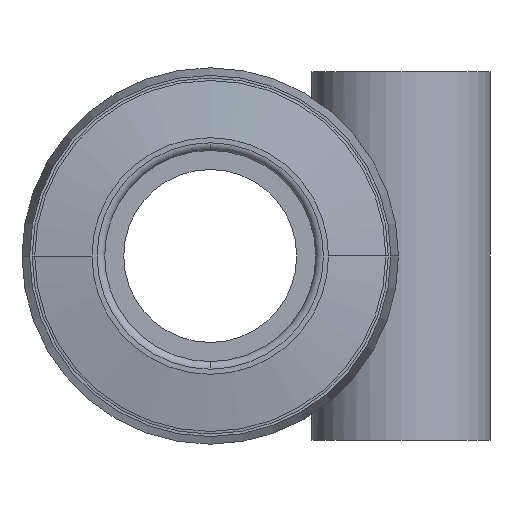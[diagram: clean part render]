
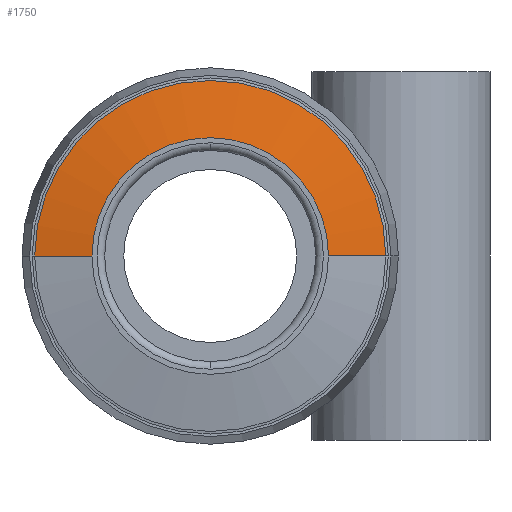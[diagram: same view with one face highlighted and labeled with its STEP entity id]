
A CAD part, front view. The second image highlights one B-rep face of the part: STEP entity #1750.
In plain terms, the highlighted conical face has half-angle 79.919 degrees and reference radius 5.775 mm.
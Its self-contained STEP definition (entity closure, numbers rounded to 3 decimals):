
#58 = AXIS2_PLACEMENT_3D ( 'NONE', #1073, #945, #1382 ) ;
#142 = ORIENTED_EDGE ( 'NONE', *, *, #1671, .F. ) ;
#297 = ORIENTED_EDGE ( 'NONE', *, *, #1365, .T. ) ;
#311 = CARTESIAN_POINT ( 'NONE',  ( 6.9, -19.2, 0. ) ) ;
#386 = DIRECTION ( 'NONE',  ( 0., 1., 0. ) ) ;
#392 = VECTOR ( 'NONE', #1019, 1000. ) ;
#433 = VECTOR ( 'NONE', #1100, 1000. ) ;
#484 = ORIENTED_EDGE ( 'NONE', *, *, #806, .T. ) ;
#490 = CIRCLE ( 'NONE', #58, 6.9 ) ;
#492 = CARTESIAN_POINT ( 'NONE',  ( -5.775, -19.4, 0. ) ) ;
#658 = LINE ( 'NONE', #492, #433 ) ;
#673 = AXIS2_PLACEMENT_3D ( 'NONE', #1550, #386, #861 ) ;
#806 = EDGE_CURVE ( 'NONE', #814, #1493, #1435, .T. ) ;
#811 = AXIS2_PLACEMENT_3D ( 'NONE', #962, #1285, #1271 ) ;
#814 = VERTEX_POINT ( 'NONE', #1719 ) ;
#825 = CARTESIAN_POINT ( 'NONE',  ( 5.775, -19.4, 0. ) ) ;
#861 = DIRECTION ( 'NONE',  ( -1., 0., 0. ) ) ;
#902 = ORIENTED_EDGE ( 'NONE', *, *, #1031, .F. ) ;
#914 = VERTEX_POINT ( 'NONE', #1486 ) ;
#930 = EDGE_LOOP ( 'NONE', ( #297, #484, #142, #902 ) ) ;
#938 = VERTEX_POINT ( 'NONE', #1037 ) ;
#945 = DIRECTION ( 'NONE',  ( 0., 1., 0. ) ) ;
#962 = CARTESIAN_POINT ( 'NONE',  ( 0., -19.4, 0. ) ) ;
#999 = CONICAL_SURFACE ( 'NONE', #811, 5.775, 1.395 ) ;
#1019 = DIRECTION ( 'NONE',  ( 0.985, 0.175, 0. ) ) ;
#1031 = EDGE_CURVE ( 'NONE', #914, #938, #658, .T. ) ;
#1037 = CARTESIAN_POINT ( 'NONE',  ( -6.9, -19.2, 0. ) ) ;
#1073 = CARTESIAN_POINT ( 'NONE',  ( 0., -19.2, 0. ) ) ;
#1100 = DIRECTION ( 'NONE',  ( -0.985, 0.175, 0. ) ) ;
#1271 = DIRECTION ( 'NONE',  ( -1., 0., 0. ) ) ;
#1285 = DIRECTION ( 'NONE',  ( 0., 1., 0. ) ) ;
#1365 = EDGE_CURVE ( 'NONE', #914, #814, #1796, .T. ) ;
#1382 = DIRECTION ( 'NONE',  ( -1., 0., 0. ) ) ;
#1435 = LINE ( 'NONE', #825, #392 ) ;
#1486 = CARTESIAN_POINT ( 'NONE',  ( -4.65, -19.6, 0. ) ) ;
#1493 = VERTEX_POINT ( 'NONE', #311 ) ;
#1550 = CARTESIAN_POINT ( 'NONE',  ( 0., -19.6, 0. ) ) ;
#1671 = EDGE_CURVE ( 'NONE', #938, #1493, #490, .T. ) ;
#1696 = FACE_OUTER_BOUND ( 'NONE', #930, .T. ) ;
#1719 = CARTESIAN_POINT ( 'NONE',  ( 4.65, -19.6, 0. ) ) ;
#1750 = ADVANCED_FACE ( 'NONE', ( #1696 ), #999, .T. ) ;
#1796 = CIRCLE ( 'NONE', #673, 4.65 ) ;
